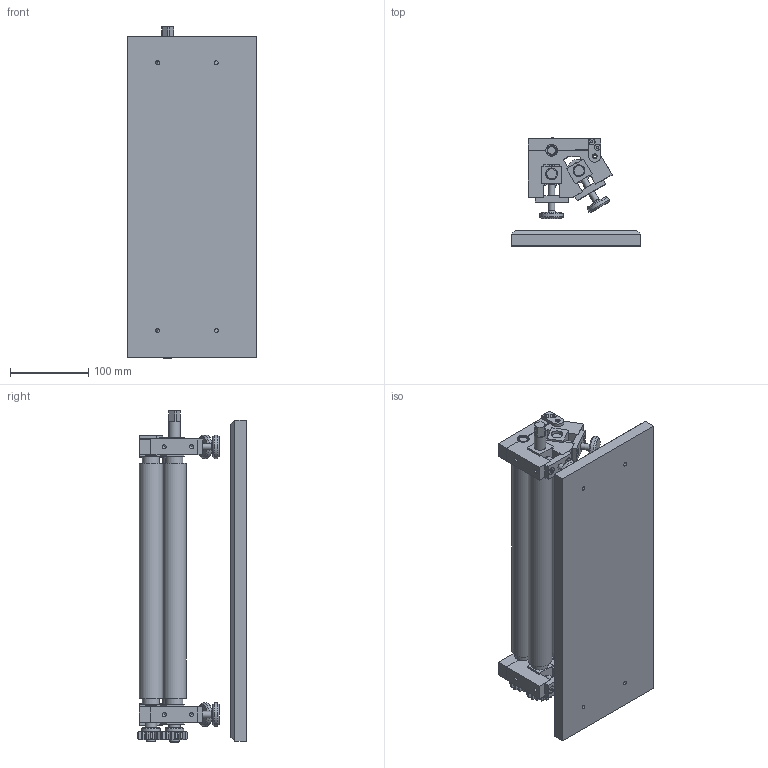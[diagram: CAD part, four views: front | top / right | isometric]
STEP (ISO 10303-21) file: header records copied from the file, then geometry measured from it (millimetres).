
FILE_DESCRIPTION(/* description */ ('ROLLER'),/* implementation_level */ '2;1');
FILE_NAME(/* name */ 'C:\Users\Apardo\Documents\Proyectos\Dietrich\Proyecto 1\PLATE ROLLING MACHINE\STEP\1 ROLLER.stp',/* time_stamp */ '2020-11-03T20:45:14-04:00',/* author */ ('Apardo'),/* organization */ ('4'),/* preprocessor_version */ 'ST-DEVELOPER v18',/* originating_system */ 'Autodesk Inventor 2020',/* authorisation */ '');
FILE_SCHEMA (('AUTOMOTIVE_DESIGN { 1 0 10303 214 3 1 1 }'));
Length unit declared in the file: millimetre
Products named in the file (20): ROLLER; base plate; hinge; hinge seat; hinge seat B; plate; position 2; Part1; pressure screw; rollerA; rollerB; rollerC; bearingA; bearingB; CRADLE; gear; ASME/ANSI B18.3.5M - M5x14(2); ASME/ANSI B18.3.5M - M4x10(2); ANSI B18.3.1M - M6x1 x 20, BSHCSM; IFI 512-C - 6 x 28
Assembly tree (50 placements, depth 2):
  ROLLER
    base plate
    hinge  x2
    hinge seat  x2
    hinge seat B  x2
    plate  x4
    position 2  x2
    Part1  x4
    pressure screw  x4
    rollerA
    rollerB
    rollerC
    bearingA
    bearingB
    CRADLE  x2
    gear  x2
    ASME/ANSI B18.3.5M - M5x14(2)  x8
    ASME/ANSI B18.3.5M - M4x10(2)  x8
    ANSI B18.3.1M - M6x1 x 20, BSHCSM  x2
    IFI 512-C - 6 x 28  x2
Bounding box: 165 x 139 x 424 mm (x, y, z)
Volume: 2317467.8 mm3; surface area: 375650.7 mm2
Topology: 50 solids, 50 shells, 1084 faces, 2960 edges, 2014 vertices
Faces by surface type: plane 589, cylinder 316, cone 155, torus 24
Full cylindrical faces by diameter (mm): 3.242 x4, 4 x8, 4.134 x8, 4.2 x8, 4.917 x12, 5 x8, 5.2 x8, 6 x6, 6.02 x6, 6.2 x2, 6.647 x4, 7.8 x8, 8 x4, 9.75 x8, 10 x2, 11 x2, 12 x3, 12.02 x2, 15 x8, 15.02 x4, 22 x6, 24 x2, 30 x7
Entity records: 13651 total; most frequent: CARTESIAN_POINT 2451, DIRECTION 2306, ORIENTED_EDGE 2096, EDGE_CURVE 1048, AXIS2_PLACEMENT_3D 879, VERTEX_POINT 725, LINE 548, VECTOR 548
